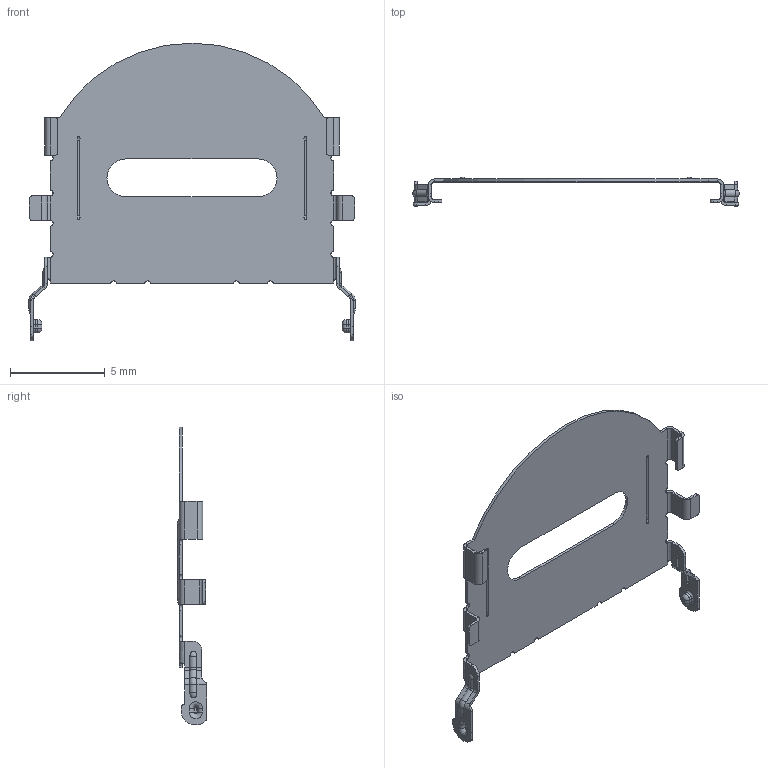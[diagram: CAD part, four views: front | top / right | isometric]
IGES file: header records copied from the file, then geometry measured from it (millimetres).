
Start section:  PTC IGES file: s-dsc20-214xx0_1_prt.igs
Global section: file name: s-dsc20-214xx0_1_prt.igs; native system: Pro/ENGINEER by Parametric Technology Corporation; preprocessor: 2006170; author: GRA; organization: Unknown; date: 20080630.105209; units: millimetre
Bounding box: 17.29 x 1.54 x 15.75 mm (x, y, z)
Surface area: 375.3 mm2 (no closed solid volume)
Topology: 0 solids, 0 shells, 511 faces, 2720 edges, 2720 vertices
Faces by surface type: bspline 358, revolution 151, extrusion 2
